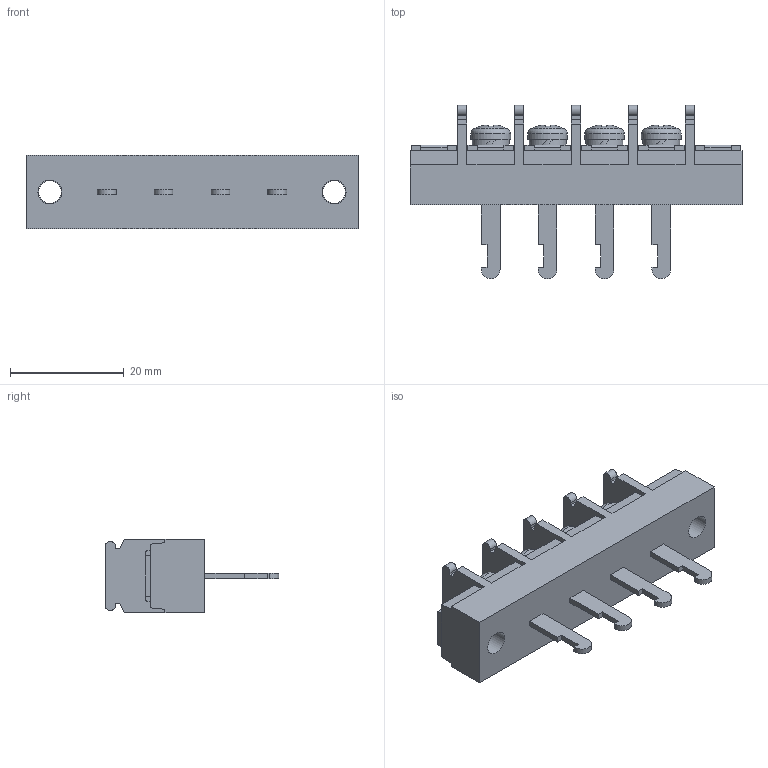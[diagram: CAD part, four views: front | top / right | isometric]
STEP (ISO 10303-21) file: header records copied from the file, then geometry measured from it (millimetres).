
FILE_DESCRIPTION(/* description */ ('Alibre Inc.'),/* implementation_level */ '2;1');
FILE_NAME(/* name */ 'export0',/* time_stamp */ '2015-10-17T19:11:16+09:00',/* author */ (''),/* organization */ (''),/* preprocessor_version */ 'ST-DEVELOPER v14',/* originating_system */ 'Alibre',/* authorisation */ '');
FILE_SCHEMA (('CONFIG_CONTROL_DESIGN'));
Length unit declared in the file: centimetre
Products named in the file (1): ID_1
Bounding box: 58.4 x 30.5 x 13 mm (x, y, z)
Volume: 8447.9 mm3; surface area: 5322.9 mm2
Topology: 1 solids, 17 shells, 708 faces, 1904 edges, 1266 vertices
Faces by surface type: plane 534, bspline 104, cylinder 42, cone 16, torus 8, sphere 4
Full cylindrical faces by diameter (mm): 4 x6, 4.2 x2, 6.5 x4, 7 x4
Entity records: 21381 total; most frequent: CARTESIAN_POINT 4875, ORIENTED_EDGE 3740, DIRECTION 2486, EDGE_CURVE 1870, VECTOR 1426, LINE 1426, VERTEX_POINT 1252, AXIS2_PLACEMENT_3D 789
